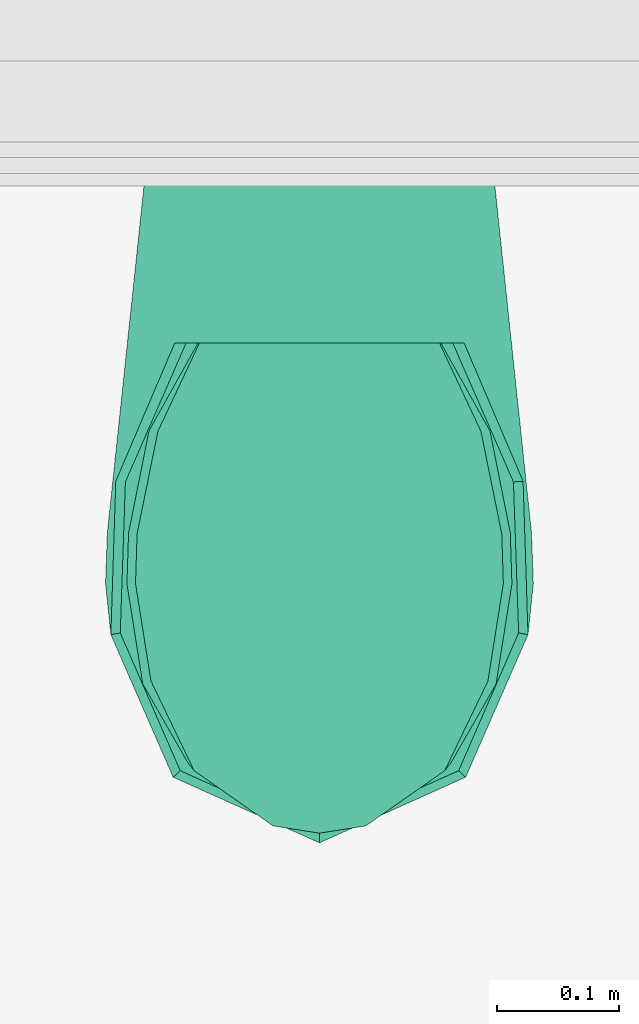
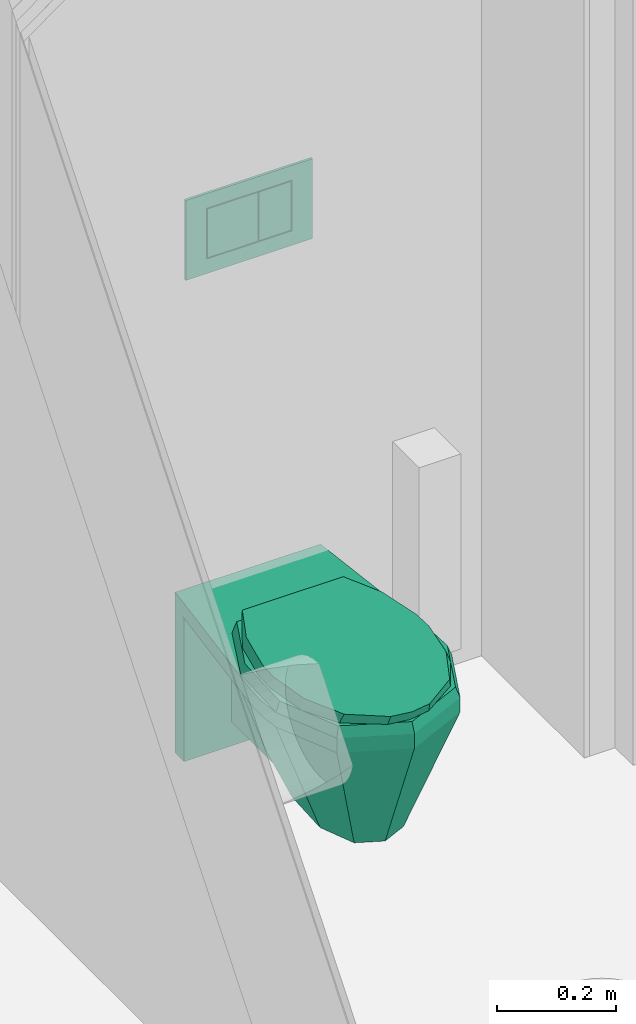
# One storey, part 244 of 301: 1 flow terminal.
"""IFC2X3 building model written with IfcOpenShell, lengths in millimetres."""

from ifc_helpers import new_model, entity, si_unit, converted_unit, derived_unit, money_unit, direction, frame, origin_with_axes, place, context, subcontext, project, spatial, faceted_brep, source, transform, mapped, type_object, element, save


model = new_model("IFC2X3")

# Units and contexts
model_context = context("Model", 3, precision=0.01, world=origin_with_axes(), true_north=direction((0.0, 1.0)))
body_context = subcontext(model_context, "Body", "Model", "MODEL_VIEW")
ifc_project = project(units=[si_unit("LENGTHUNIT", "METRE", prefix="MILLI"), si_unit("AREAUNIT", "SQUARE_METRE"), si_unit("VOLUMEUNIT", "CUBIC_METRE"), converted_unit("PLANEANGLEUNIT", "DEGREE", entity("IfcPlaneAngleMeasure", 0.0174532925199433), si_unit("PLANEANGLEUNIT", "RADIAN"), dimensions=[0, 0, 0, 0, 0, 0, 0]), money_unit("EUR"), converted_unit("TIMEUNIT", "Year", entity("IfcTimeMeasure", 31557600.0), si_unit("TIMEUNIT", "SECOND"), dimensions=[0, 0, 1, 0, 0, 0, 0]), si_unit("MASSUNIT", "GRAM", prefix="KILO"), si_unit("THERMODYNAMICTEMPERATUREUNIT", "DEGREE_CELSIUS"), si_unit("LUMINOUSINTENSITYUNIT", "LUMEN"), si_unit("ENERGYUNIT", "JOULE", prefix="MEGA"), derived_unit("THERMALCONDUCTANCEUNIT", [(si_unit("POWERUNIT", "WATT"), 1), (si_unit("LENGTHUNIT", "METRE"), -1), (si_unit("THERMODYNAMICTEMPERATUREUNIT", "KELVIN"), -1)]), derived_unit("SPECIFICHEATCAPACITYUNIT", [(si_unit("ENERGYUNIT", "JOULE"), 1), (si_unit("MASSUNIT", "GRAM", prefix="KILO"), -1), (si_unit("THERMODYNAMICTEMPERATUREUNIT", "KELVIN"), -1)]), derived_unit("MASSDENSITYUNIT", [(si_unit("MASSUNIT", "GRAM", prefix="KILO"), 1), (si_unit("VOLUMEUNIT", "CUBIC_METRE"), -1)])], contexts=[model_context])

# Site, building, storey
site_placement = place(None, frame((0.0, 0.0, 8650.0), z_axis=(0.0, 0.0, 1.0), x_axis=(1.0, 0.0, 0.0)))
site = spatial("IfcSite", under=ifc_project, at=site_placement, Name="43301:001:0844", CompositionType="ELEMENT")
building_placement = place(site_placement, origin_with_axes())
building = spatial("IfcBuilding", under=site, at=building_placement, Name="Kuressaare Ametikooli tuulikute mehaanikute õppekorpus", CompositionType="ELEMENT")
storey_placement = place(building_placement, origin_with_axes())
storey = spatial("IfcBuildingStorey", under=building, at=storey_placement, Name="1.korrus", CompositionType="ELEMENT", Elevation=0.0)

# Flow terminal
sanitary_terminal_type = type_object("IfcSanitaryTerminalType", Name="WC 27", PredefinedType="NOTDEFINED")
shared_shape = source(origin_with_axes(), body_context, "Body", "Brep", [
    faceted_brep([(141.0283315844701, -29.31865370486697, 69.99999999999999), (-141.0283315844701, -29.31865370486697, 69.99999999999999), (-141.0283315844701, 0.4949050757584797, 69.99999999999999), (141.0283315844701, 0.4949050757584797, 69.99999999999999), (141.0283315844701, -29.31865370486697, 370.0), (-141.0283315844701, -29.31865370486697, 370.0), (-141.0283315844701, 0.4949050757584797, 370.0), (141.0283315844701, 0.4949050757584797, 370.0)], [[[0, 1, 2, 3]], [[1, 0, 4, 5]], [[2, 1, 5, 6]], [[3, 2, 6, 7]], [[0, 3, 7, 4]], [[5, 4, 7, 6]]]),
    faceted_brep([(101.7881776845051, -122.4661491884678, 370.0), (48.96817068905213, -87.43521908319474, 370.0), (48.96817068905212, -29.31865370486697, 370.0), (-48.96817068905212, -29.31865370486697, 370.0), (-48.96817068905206, -87.43521908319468, 370.0), (-101.7881776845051, -122.4661491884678, 370.0), (-164.8111927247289, -257.295981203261, 370.0), (-170.4738719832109, -389.7973742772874, 370.0), (-119.554809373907, -506.3435444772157, 370.0), (0.0, -560.0, 370.0), (119.554809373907, -506.3435444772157, 370.0), (170.4738719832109, -389.7973742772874, 370.0), (164.8111927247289, -257.2969749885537, 370.0), (63.65862189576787, -201.5126978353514, 370.0), (110.2599674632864, -260.6221805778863, 370.0), (127.3172437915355, -341.3672356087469, 370.0), (110.2599674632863, -422.1122906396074, 370.0), (63.65862189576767, -481.2217733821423, 370.0), (0.0, -502.8573456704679, 370.0), (-63.65862189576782, -481.2217733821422, 370.0), (-110.2599674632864, -422.1122906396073, 370.0), (-127.3172437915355, -341.3672356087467, 370.0), (-110.2599674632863, -260.6221805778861, 370.0), (-63.65862189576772, -201.5126978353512, 370.0), (0.0, -179.8771255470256, 370.0), (48.96817068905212, -132.9294031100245, 150.8349994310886), (48.96817068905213, -168.852251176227, 120.0), (48.96817068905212, -29.31865370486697, 120.0), (-48.96817068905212, -29.31865370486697, 120.0), (-48.96817068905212, -132.9294031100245, 150.8349994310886), (-48.96817068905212, -111.9632571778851, 220.0911688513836), (-48.96817068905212, -168.852251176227, 120.0), (-48.96817068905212, -141.8100147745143, 135.0708656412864), (-70.97348723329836, -270.8651255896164, 120.0), (-74.94382651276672, -372.4786779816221, 120.0), (-47.75865687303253, -440.0938417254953, 120.0), (0.0, -461.5278029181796, 120.0), (47.75865687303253, -440.0938417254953, 120.0), (74.94382651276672, -372.4786779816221, 120.0), (70.97348723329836, -270.8651255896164, 120.0), (24.48408534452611, -287.5770287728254, 170.0), (42.4076797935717, -310.311445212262, 170.0), (48.96817068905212, -341.3672356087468, 170.0), (42.40767979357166, -372.4230260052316, 170.0), (24.48408534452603, -395.1574424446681, 170.0), (0.0, -403.4788164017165, 170.0), (-24.48408534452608, -395.1574424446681, 170.0), (-42.40767979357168, -372.4230260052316, 170.0), (-48.96817068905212, -341.3672356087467, 170.0), (-42.40767979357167, -310.3114452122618, 170.0), (-24.48408534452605, -287.5770287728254, 170.0), (0.0, -279.2556548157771, 170.0)], [[[0, 1, 2, 3, 4, 5, 6, 7, 8, 9, 10, 11, 12], [13, 14, 15, 16, 17, 18, 19, 20, 21, 22, 23, 24]], [[0, 25, 1]], [[1, 25, 26, 27, 2]], [[3, 2, 27, 28]], [[29, 30, 4, 3, 28, 31, 32]], [[5, 4, 30]], [[5, 29, 32, 6]], [[7, 6, 33]], [[8, 7, 34]], [[9, 8, 35]], [[10, 9, 36]], [[11, 10, 37]], [[12, 11, 38]], [[0, 12, 39]], [[14, 13, 40, 41]], [[15, 14, 41, 42]], [[16, 15, 42, 43]], [[17, 16, 43, 44]], [[18, 17, 44, 45]], [[19, 18, 45, 46]], [[20, 19, 46, 47]], [[21, 20, 47, 48]], [[22, 21, 48, 49]], [[23, 22, 49, 50]], [[24, 23, 50, 51]], [[13, 24, 51, 40]], [[39, 26, 25, 0]], [[33, 31, 28, 27, 26, 39, 38, 37, 36, 35, 34]], [[5, 30, 29]], [[6, 32, 31, 33]], [[34, 7, 33]], [[35, 8, 34]], [[36, 9, 35]], [[37, 10, 36]], [[38, 11, 37]], [[39, 12, 38]], [[40, 51, 50, 49, 48, 47, 46, 45, 44, 43, 42, 41]]]),
    faceted_brep([(-174.8222455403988, -348.2949128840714, 370.0), (-173.3473242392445, -306.5847503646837, 370.0), (-140.9734872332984, 0.0, 370.0), (140.975445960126, 0.0, 370.0), (173.3473242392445, -306.5847503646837, 370.0), (174.8222455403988, -348.2949128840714, 370.0), (170.4738719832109, -389.7973742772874, 370.0), (119.554809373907, -506.3435444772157, 370.0), (0.0, -560.0, 370.0), (-119.554809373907, -506.3435444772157, 370.0), (-170.4738719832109, -389.7973742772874, 370.0), (83.6883665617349, -472.7512164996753, 370.0), (119.3317103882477, -391.1688973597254, 370.0), (122.3755718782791, -362.1171743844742, 370.0), (121.3431269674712, -332.9200606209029, 370.0), (98.68281217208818, -201.7886999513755, 370.0), (-98.68144106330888, -201.7886999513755, 370.0), (-121.3431269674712, -332.9200606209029, 370.0), (-122.3755718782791, -362.1171743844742, 370.0), (-119.3317103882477, -391.1688973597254, 370.0), (-83.6883665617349, -472.7512164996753, 370.0), (0.0, -510.3107353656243, 370.0), (-173.3473242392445, -306.5847503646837, 400.0), (-174.8222455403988, -348.2949128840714, 400.0), (-140.9734872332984, 0.0, 400.0), (140.975445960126, 0.0, 400.0), (173.3473242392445, -306.5847503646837, 400.0), (174.8222455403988, -348.2949128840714, 400.0), (170.4738719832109, -389.7973742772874, 400.0), (119.554809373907, -506.3435444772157, 400.0), (0.0, -560.0, 400.0), (-119.554809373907, -506.3435444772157, 400.0), (-170.4738719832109, -389.7973742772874, 400.0), (83.6883665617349, -472.7512164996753, 400.0), (119.3317103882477, -391.1688973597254, 400.0), (122.3755718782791, -362.1171743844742, 400.0), (121.3431269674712, -332.9200606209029, 400.0), (98.68281217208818, -201.7886999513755, 400.0), (-98.68144106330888, -201.7886999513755, 400.0), (-121.3431269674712, -332.9200606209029, 400.0), (-122.3755718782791, -362.1171743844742, 400.0), (-119.3317103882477, -391.1688973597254, 400.0), (-83.6883665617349, -472.7512164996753, 400.0), (0.0, -510.3107353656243, 400.0)], [[[0, 1, 2, 3, 4, 5, 6, 7, 8, 9, 10], [11, 12, 13, 14, 15, 16, 17, 18, 19, 20, 21]], [[22, 1, 0, 23]], [[24, 2, 1, 22]], [[25, 3, 2, 24]], [[26, 4, 3, 25]], [[27, 5, 4, 26]], [[28, 6, 5, 27]], [[29, 7, 6, 28]], [[30, 8, 7, 29]], [[31, 9, 8, 30]], [[32, 10, 9, 31]], [[23, 0, 10, 32]], [[33, 34, 12, 11]], [[34, 35, 13, 12]], [[35, 36, 14, 13]], [[36, 37, 15, 14]], [[37, 38, 16, 15]], [[38, 39, 17, 16]], [[39, 40, 18, 17]], [[40, 41, 19, 18]], [[41, 42, 20, 19]], [[42, 43, 21, 20]], [[43, 33, 11, 21]], [[24, 22, 23, 32, 31, 30, 29, 28, 27, 26, 25], [37, 36, 35, 34, 33, 43, 42, 41, 40, 39, 38]]]),
    faceted_brep([(170.4738719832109, -389.7973742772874, 400.0), (119.554809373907, -506.3435444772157, 400.0), (0.0, -560.0, 400.0), (-119.554809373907, -506.3435444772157, 400.0), (-170.4738719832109, -389.7973742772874, 400.0), (-166.4663168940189, -264.4263906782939, 400.0), (-118.2121021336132, -151.3163525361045, 400.0), (118.2121021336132, -151.3163525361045, 400.0), (166.4663168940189, -264.4263906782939, 400.0), (87.07689659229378, -411.9963613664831, 400.0), (94.51085540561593, -382.2763031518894, 400.0), (97.71606496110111, -351.7983255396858, 400.0), (96.61425296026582, -320.7429308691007, 400.0), (90.99294096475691, -286.7942733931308, 400.0), (81.32886310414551, -253.3381075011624, 400.0), (68.75448552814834, -223.4663237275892, 400.0), (-68.75412876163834, -223.4663237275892, 400.0), (-81.3289539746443, -253.3384220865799, 400.0), (-90.99294096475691, -286.7942733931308, 400.0), (-96.61425296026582, -320.7429308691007, 400.0), (-97.71606496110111, -351.7983255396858, 400.0), (-94.51085540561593, -382.2763031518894, 400.0), (-87.07689659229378, -411.9963613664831, 400.0), (-76.4888004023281, -438.0775703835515, 400.0), (-62.06856874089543, -459.4262123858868, 400.0), (-44.26109835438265, -474.4067566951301, 400.0), (-23.02579943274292, -483.9023013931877, 400.0), (0.0, -487.1544663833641, 400.0), (23.02579943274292, -483.9023013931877, 400.0), (44.26109835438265, -474.4067566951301, 400.0), (62.06856874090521, -459.4262123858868, 400.0), (76.4888004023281, -438.0775703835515, 400.0), (162.8034977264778, -388.4070686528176, 420.0000000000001), (113.7912556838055, -501.0248055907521, 420.0000000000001), (0.0, -552.0944379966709, 420.0000000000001), (-113.7912556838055, -501.0248055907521, 420.0000000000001), (-162.8034977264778, -388.4070686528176, 420.0000000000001), (-158.5902763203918, -264.9332211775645, 420.0000000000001), (-108.940468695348, -151.3163525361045, 420.0000000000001), (108.940468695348, -151.3163525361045, 420.0000000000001), (158.5902763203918, -264.9332211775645, 420.0000000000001), (87.07689659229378, -411.9963613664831, 420.0000000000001), (94.51085540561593, -382.2763031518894, 420.0000000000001), (97.71606496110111, -351.7983255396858, 420.0000000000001), (96.61425296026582, -320.7429308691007, 420.0000000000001), (90.99294096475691, -286.7942733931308, 420.0000000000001), (81.32886310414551, -253.3381075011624, 420.0000000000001), (68.75448552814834, -223.4663237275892, 420.0000000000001), (-68.75412876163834, -223.4663237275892, 420.0000000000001), (-81.3289539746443, -253.3384220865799, 420.0000000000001), (-90.99294096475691, -286.7942733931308, 420.0000000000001), (-96.61425296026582, -320.7429308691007, 420.0000000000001), (-97.71606496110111, -351.7983255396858, 420.0000000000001), (-94.51085540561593, -382.2763031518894, 420.0000000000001), (-87.07689659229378, -411.9963613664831, 420.0000000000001), (-76.4888004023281, -438.0775703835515, 420.0000000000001), (-62.06856874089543, -459.4262123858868, 420.0000000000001), (-44.26109835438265, -474.4067566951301, 420.0000000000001), (-23.02579943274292, -483.9023013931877, 420.0000000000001), (0.0, -487.1544663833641, 420.0000000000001), (23.02579943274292, -483.9023013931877, 420.0000000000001), (44.26109835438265, -474.4067566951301, 420.0000000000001), (62.06856874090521, -459.4262123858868, 420.0000000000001), (76.4888004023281, -438.0775703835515, 420.0000000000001)], [[[0, 1, 2, 3, 4, 5, 6, 7, 8], [9, 10, 11, 12, 13, 14, 15, 16, 17, 18, 19, 20, 21, 22, 23, 24, 25, 26, 27, 28, 29, 30, 31]], [[1, 0, 32]], [[2, 1, 33]], [[3, 2, 34]], [[4, 3, 35]], [[5, 4, 36]], [[6, 5, 37]], [[6, 38, 39, 7]], [[8, 7, 39]], [[0, 8, 40]], [[41, 42, 10, 9]], [[42, 43, 11, 10]], [[43, 44, 12, 11]], [[44, 45, 13, 12]], [[45, 46, 14, 13]], [[46, 47, 15, 14]], [[47, 48, 16, 15]], [[48, 49, 17, 16]], [[49, 50, 18, 17]], [[50, 51, 19, 18]], [[51, 52, 20, 19]], [[52, 53, 21, 20]], [[53, 54, 22, 21]], [[54, 55, 23, 22]], [[55, 56, 24, 23]], [[56, 57, 25, 24]], [[57, 58, 26, 25]], [[58, 59, 27, 26]], [[59, 60, 28, 27]], [[60, 61, 29, 28]], [[61, 62, 30, 29]], [[62, 63, 31, 30]], [[63, 41, 9, 31]], [[0, 40, 32]], [[1, 32, 33]], [[2, 33, 34]], [[3, 34, 35]], [[4, 35, 36]], [[5, 36, 37]], [[6, 37, 38]], [[38, 37, 36, 35, 34, 33, 32, 40, 39], [45, 44, 43, 42, 41, 63, 62, 61, 60, 59, 58, 57, 56, 55, 54, 53, 52, 51, 50, 49, 48, 47, 46]], [[8, 39, 40]]]),
    faceted_brep([(-107.5993284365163, -494.4181209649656, 420.0000000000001), (-39.85813221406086, -538.8154789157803, 420.0000000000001), (-37.93662119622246, -546.1188070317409, 440.0000000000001), (-144.3504302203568, -430.2603362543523, 420.0000000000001), (-157.3400209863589, -348.2949128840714, 420.0000000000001), (-156.01259181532, -306.5847503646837, 420.0000000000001), (-139.3844700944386, -223.3443004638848, 420.0000000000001), (-99.17339219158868, -151.3163525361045, 420.0000000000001), (99.17339219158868, -151.3163525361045, 420.0000000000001), (139.3844700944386, -223.3443004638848, 420.0000000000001), (156.01259181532, -306.5847503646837, 420.0000000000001), (157.3400209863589, -348.2949128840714, 420.0000000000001), (144.3513116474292, -430.2603362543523, 420.0000000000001), (107.5993284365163, -494.4181209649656, 420.0000000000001), (39.85813221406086, -538.8154789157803, 420.0000000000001), (0.0, -545.0932206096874, 420.0000000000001), (0.0, -552.0944379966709, 440.0000000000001), (-102.412130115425, -501.0248055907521, 440.0000000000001), (-137.6912486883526, -427.7848170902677, 440.0000000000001), (-150.3317943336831, -348.0176467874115, 440.0000000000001), (-149.0405036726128, -307.4274802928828, 440.0000000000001), (-132.0192654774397, -223.5758524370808, 440.0000000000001), (-98.04642182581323, -151.3163525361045, 440.0000000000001), (98.04642182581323, -151.3163525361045, 440.0000000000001), (132.0192654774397, -223.5758524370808, 440.0000000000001), (149.0405036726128, -307.4274802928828, 440.0000000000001), (150.3317943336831, -348.0176467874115, 440.0000000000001), (137.6912486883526, -427.7848170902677, 440.0000000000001), (102.412130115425, -501.0248055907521, 440.0000000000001), (37.93662119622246, -546.1188070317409, 440.0000000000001)], [[[0, 1, 2]], [[0, 3, 4, 5, 6, 7, 8, 9, 10, 11, 12, 13, 14, 15, 1]], [[1, 16, 2]], [[0, 2, 17]], [[3, 0, 17]], [[4, 3, 18]], [[5, 4, 19]], [[6, 5, 20]], [[7, 6, 21]], [[8, 7, 22, 23]], [[9, 8, 23]], [[10, 9, 24]], [[11, 10, 25]], [[12, 11, 26]], [[13, 12, 27]], [[14, 13, 28]], [[15, 14, 29]], [[1, 15, 16]], [[17, 2, 16, 29, 28, 27, 26, 25, 24, 23, 22, 21, 20, 19, 18]], [[3, 17, 18]], [[4, 18, 19]], [[5, 19, 20]], [[6, 20, 21]], [[7, 21, 22]], [[9, 23, 24]], [[10, 24, 25]], [[11, 25, 26]], [[12, 26, 27]], [[13, 27, 28]], [[14, 28, 29]], [[15, 29, 16]]]),
    faceted_brep([(-83.0, 0.0, 1036.0), (-83.0, 0.0, 1170.0), (-83.0, -4.999999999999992, 1170.0), (-83.0, -5.0, 1036.0), (-123.0, 0.0, 1036.0), (-123.0, 0.0, 1200.0), (123.0, 0.0, 1200.0), (123.0, 0.0, 1036.0), (83.0, 0.0, 1036.0), (83.0, 0.0, 1170.0), (83.0, -4.999999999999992, 1170.0), (83.0, -5.0, 1036.0), (123.0, -5.0, 1036.0), (123.0, -4.999999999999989, 1200.0), (-123.0, -4.999999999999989, 1200.0), (-123.0, -5.0, 1036.0)], [[[0, 1, 2, 3]], [[0, 4, 5, 6, 7, 8, 9, 1]], [[1, 9, 10, 2]], [[3, 2, 10, 11, 12, 13, 14, 15]], [[4, 0, 3, 15]], [[5, 4, 15, 14]], [[6, 5, 14, 13]], [[7, 6, 13, 12]], [[8, 7, 12, 11]], [[9, 8, 11, 10]]]),
    faceted_brep([(83.0, 0.0, 1036.0), (83.0, 0.0, 1066.0), (83.0, -4.999999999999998, 1066.0), (83.0, -5.0, 1036.0), (-83.0, 0.0, 1036.0), (-83.0, 0.0, 1066.0), (-83.0, -4.999999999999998, 1066.0), (-83.0, -5.0, 1036.0)], [[[0, 1, 2, 3]], [[0, 4, 5, 1]], [[1, 5, 6, 2]], [[3, 2, 6, 7]], [[4, 0, 3, 7]], [[5, 4, 7, 6]]]),
    faceted_brep([(-81.0, 0.0, 1068.0), (17.0, 0.0, 1068.0), (17.0, -4.999999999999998, 1068.0), (-81.0, -4.999999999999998, 1068.0), (-81.0, 0.0, 1168.0), (17.0, 0.0, 1168.0), (17.0, -4.999999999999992, 1168.0), (-81.0, -4.999999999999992, 1168.0)], [[[0, 1, 2, 3]], [[0, 4, 5, 1]], [[1, 5, 6, 2]], [[3, 2, 6, 7]], [[4, 0, 3, 7]], [[5, 4, 7, 6]]]),
    faceted_brep([(19.0, 0.0, 1168.0), (19.0, 0.0, 1068.0), (19.0, -4.999999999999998, 1068.0), (19.0, -4.999999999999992, 1168.0), (81.0, 0.0, 1168.0), (81.0, 0.0, 1068.0), (81.0, -4.999999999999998, 1068.0), (81.0, -4.999999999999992, 1168.0)], [[[0, 1, 2, 3]], [[0, 4, 5, 1]], [[1, 5, 6, 2]], [[3, 2, 6, 7]], [[4, 0, 3, 7]], [[5, 4, 7, 6]]]),
])
flow_terminal_placement = place(storey_placement, frame((99577.70591693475, 29911.48189919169, -80.0), z_axis=(0.0, 0.0, 1.0), x_axis=(0.9999999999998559, 5.369436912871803e-07, 0.0)))
element("IfcFlowTerminal", 1, at=flow_terminal_placement, inside=storey, type_object=sanitary_terminal_type, Name="WC1", context=body_context, shape_type="MappedRepresentation", body=[
    mapped(shared_shape, transform((0.0, 0.0, 0.0))),
])

save(model, "model.ifc")
